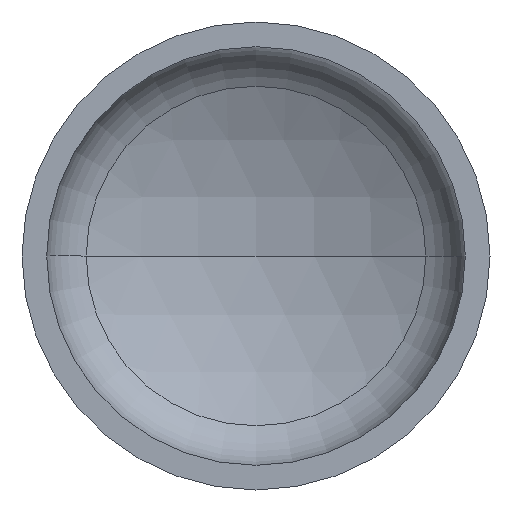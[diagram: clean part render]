
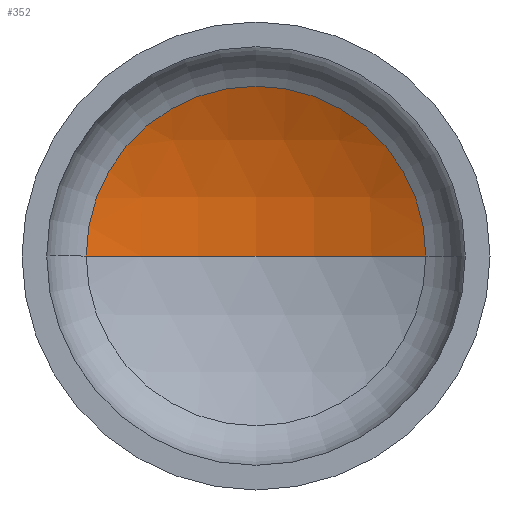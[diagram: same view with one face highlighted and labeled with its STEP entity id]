
A CAD part, front view. The second image highlights one B-rep face of the part: STEP entity #352.
In plain terms, the highlighted spherical face has radius 1760 mm.
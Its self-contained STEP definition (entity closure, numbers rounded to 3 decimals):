
#1 = AXIS2_PLACEMENT_3D ( 'NONE', #295, #401, #378 ) ;
#2 = AXIS2_PLACEMENT_3D ( 'NONE', #84, #297, #115 ) ;
#3 = CARTESIAN_POINT ( 'NONE',  ( 798.197, 378.023, 0. ) ) ;
#6 = CARTESIAN_POINT ( 'NONE',  ( -798.197, 378.023, 0. ) ) ;
#8 = AXIS2_PLACEMENT_3D ( 'NONE', #48, #261, #82 ) ;
#48 = CARTESIAN_POINT ( 'NONE',  ( 0., -1190.569, 0. ) ) ;
#66 = VERTEX_POINT ( 'NONE', #193 ) ;
#82 = DIRECTION ( 'NONE',  ( 1., 0., 0. ) ) ;
#84 = CARTESIAN_POINT ( 'NONE',  ( 0., -1190.569, 0. ) ) ;
#91 = VERTEX_POINT ( 'NONE', #6 ) ;
#94 = VERTEX_POINT ( 'NONE', #3 ) ;
#102 = FACE_OUTER_BOUND ( 'NONE', #199, .T. ) ;
#112 = CIRCLE ( 'NONE', #8, 1760. ) ;
#115 = DIRECTION ( 'NONE',  ( -1., 0., 0. ) ) ;
#168 = AXIS2_PLACEMENT_3D ( 'NONE', #356, #173, #381 ) ;
#173 = DIRECTION ( 'NONE',  ( 0., -1., 0. ) ) ;
#182 = SPHERICAL_SURFACE ( 'NONE', #1, 1760. ) ;
#193 = CARTESIAN_POINT ( 'NONE',  ( 0., 569.431, 0. ) ) ;
#199 = EDGE_LOOP ( 'NONE', ( #338, #307, #372 ) ) ;
#258 = CIRCLE ( 'NONE', #2, 1760. ) ;
#261 = DIRECTION ( 'NONE',  ( 0., 0., 1. ) ) ;
#295 = CARTESIAN_POINT ( 'NONE',  ( 0., -1190.569, 0. ) ) ;
#297 = DIRECTION ( 'NONE',  ( 0., 0., -1. ) ) ;
#307 = ORIENTED_EDGE ( 'NONE', *, *, #366, .T. ) ;
#338 = ORIENTED_EDGE ( 'NONE', *, *, #342, .F. ) ;
#342 = EDGE_CURVE ( 'NONE', #66, #91, #112, .T. ) ;
#352 = ADVANCED_FACE ( 'NONE', ( #102 ), #182, .F. ) ;
#356 = CARTESIAN_POINT ( 'NONE',  ( 0., 378.023, 0. ) ) ;
#366 = EDGE_CURVE ( 'NONE', #66, #94, #258, .T. ) ;
#370 = EDGE_CURVE ( 'NONE', #94, #91, #400, .T. ) ;
#372 = ORIENTED_EDGE ( 'NONE', *, *, #370, .T. ) ;
#378 = DIRECTION ( 'NONE',  ( -1., 0., 0. ) ) ;
#381 = DIRECTION ( 'NONE',  ( 1., 0., 0. ) ) ;
#400 = CIRCLE ( 'NONE', #168, 798.197 ) ;
#401 = DIRECTION ( 'NONE',  ( 0., 0., -1. ) ) ;
